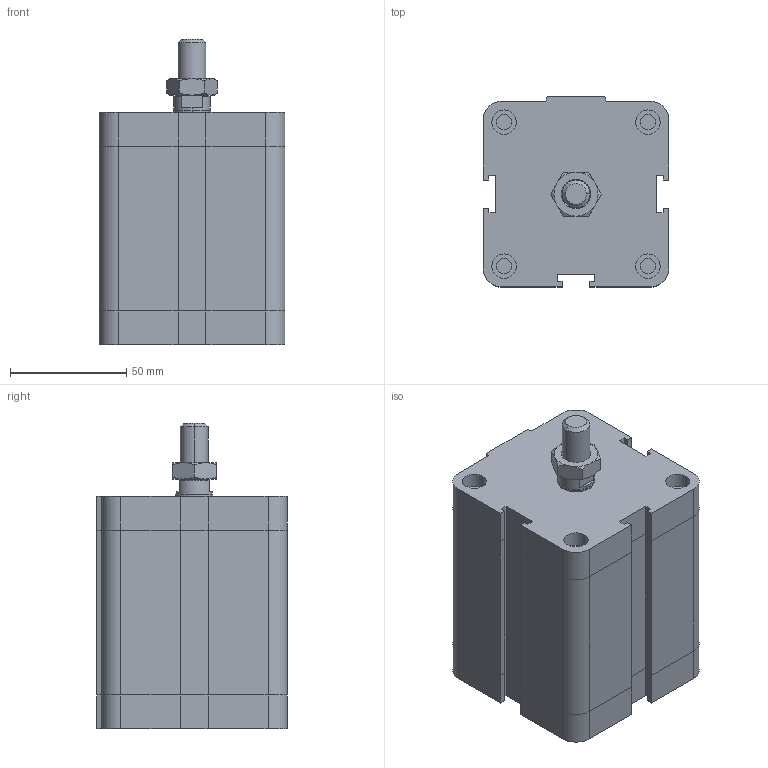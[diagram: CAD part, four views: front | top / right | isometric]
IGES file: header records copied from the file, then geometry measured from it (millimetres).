
Global section: file name: No Iges File Name specified; native system: Autodesk Inventor 2009; preprocessor: AutoDesk Inventor Iges Exporter R2009; author: rivolro1; date: 20081219.162500; units: millimetre
Bounding box: 80 x 82 x 131.5 mm (x, y, z)
Volume: 612118.3 mm3; surface area: 63091.6 mm2
Topology: 3 solids, 3 shells, 216 faces, 472 edges, 282 vertices
Faces by surface type: plane 121, bspline 37, cylinder 20, cone 20, revolution 18
